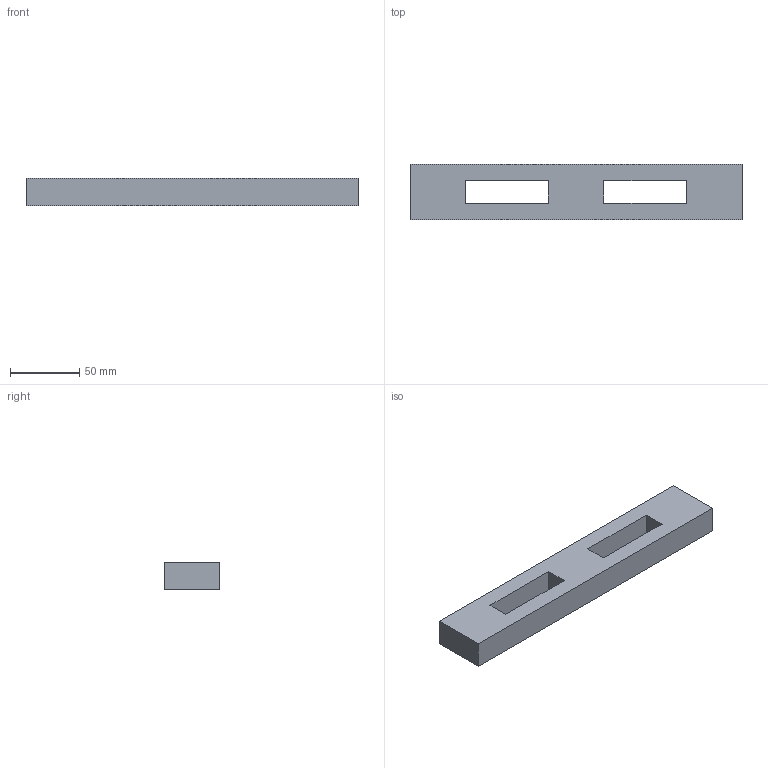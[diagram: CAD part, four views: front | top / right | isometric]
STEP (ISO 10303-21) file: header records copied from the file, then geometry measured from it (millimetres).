
FILE_DESCRIPTION(('Open CASCADE Model'),'2;1');
FILE_NAME('Open CASCADE Shape Model','2026-10-28T04:25:25',('Author'),( 'Open CASCADE'),'Open CASCADE STEP processor 7.8','Open CASCADE 7.8' ,'Unknown');
FILE_SCHEMA(('AUTOMOTIVE_DESIGN { 1 0 10303 214 1 1 1 1 }'));
Length unit declared in the file: millimetre
Products named in the file (1): Open CASCADE STEP translator 7.8 3
Bounding box: 240 x 40 x 20 mm (x, y, z)
Volume: 153600 mm3; surface area: 32640 mm2
Topology: 1 solids, 1 shells, 14 faces, 36 edges, 24 vertices
Faces by surface type: plane 14
Entity records: 906 total; most frequent: CARTESIAN_POINT 147, DIRECTION 138, LINE 108, VECTOR 108, ORIENTED_EDGE 72, PCURVE 72, DEFINITIONAL_REPRESENTATION 72, EDGE_CURVE 36
